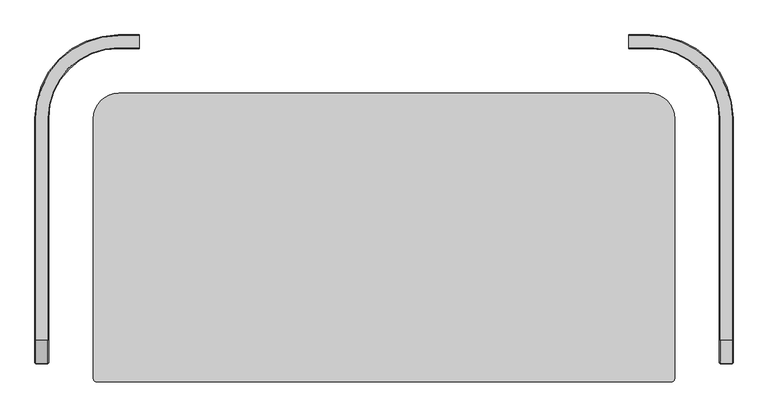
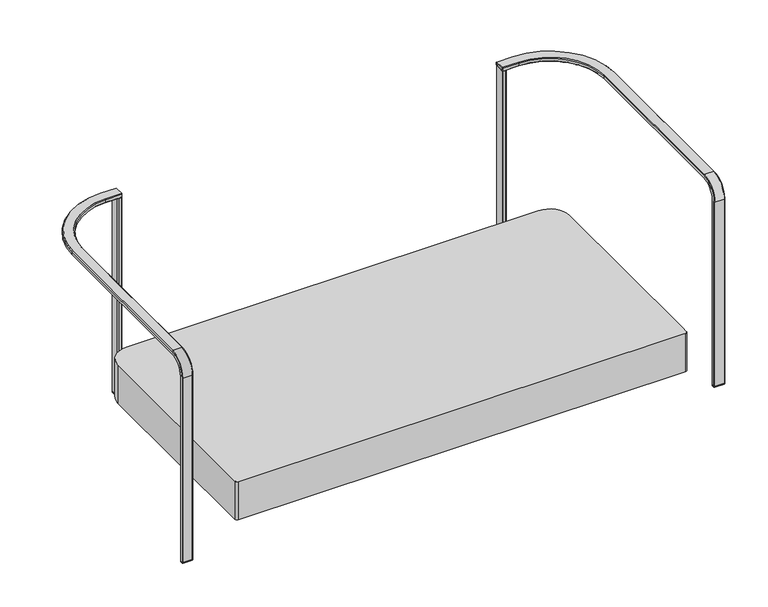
"""IFC4 building model written with IfcOpenShell, lengths in millimetres: furniture geometry, 00304 - Haworth - Castelli - Jul 13 - Ver - 4 - M_Sit (SLMS-FD02-8P) : Settee_SLMS-FD-02."""

from ifc_helpers import new_model, si_unit, frame, origin, origin_with_axes, place, context, project, spatial, polyline, circle_curve, outline, extrude, faceted_brep, source, transform, mapped, element, save
from ifc_brep_helpers import plane_surface, cylinder_surface, revolved_surface, advanced_brep


def furniture_18450899(model_context):
    return source(origin(), model_context, "Body", "SolidModel", [
        faceted_brep([(603.0548088, 711.9161717, 2.5539877), (603.0548088, 686.2246632, 2.5539877), (602.0099381, 685.1797924, 2.5539877), (595.3684295, 685.1797924, 2.5539877), (594.3235588, 686.2246632, 2.5539877), (594.3235588, 711.9161717, 2.5539877), (595.3684295, 712.9610424, 2.5539877), (602.0099381, 712.9610424, 2.5539877), (604.6423088, 712.5737357, 3.175), (602.6675021, 714.5485424, 3.175), (594.7108655, 714.5485424, 3.175), (592.7360588, 712.5737357, 3.175), (592.7360588, 685.5670991, 3.175), (594.7108655, 683.5922924, 3.175), (602.6675021, 683.5922924, 3.175), (604.6423088, 685.5670991, 3.175)], [[[0, 1, 2, 3, 4, 5, 6, 7]], [[8, 9, 10, 11, 12, 13, 14, 15]], [[8, 0, 7, 9]], [[9, 7, 6, 10]], [[10, 6, 5, 11]], [[11, 5, 4, 12]], [[12, 4, 3, 13]], [[13, 3, 2, 14]], [[14, 2, 1, 15]], [[15, 1, 0, 8]]]),
        faceted_brep([(603.0548088, 711.9161717, 2.5539877), (602.0099381, 712.9610424, 2.5539877), (595.3684295, 712.9610424, 2.5539877), (594.3235588, 711.9161717, 2.5539877), (594.3235588, 686.2246632, 2.5539877), (595.3684295, 685.1797924, 2.5539877), (602.0099381, 685.1797924, 2.5539877), (603.0548088, 686.2246632, 2.5539877), (604.6423088, 712.5737357, 1.7602377), (604.6423088, 685.5670991, 1.7602377), (602.6675021, 683.5922924, 1.7602377), (594.7108655, 683.5922924, 1.7602377), (592.7360588, 685.5670991, 1.7602377), (592.7360588, 712.5737357, 1.7602377), (594.7108655, 714.5485424, 1.7602377), (602.6675021, 714.5485424, 1.7602377)], [[[0, 1, 2, 3, 4, 5, 6, 7]], [[8, 9, 10, 11, 12, 13, 14, 15]], [[8, 0, 7, 9]], [[9, 7, 6, 10]], [[10, 6, 5, 11]], [[11, 5, 4, 12]], [[12, 4, 3, 13]], [[13, 3, 2, 14]], [[14, 2, 1, 15]], [[15, 1, 0, 8]]]),
        faceted_brep([(827.6860588, -20.88239, 2.5539877), (827.6860588, -28.1814626, 2.5539877), (826.1762201, -29.6913013, 2.5539877), (799.8271475, -29.6913013, 2.5539877), (798.3173088, -28.1814626, 2.5539877), (798.3173088, -20.88239, 2.5539877), (799.8271475, -19.3725513, 2.5539877), (826.1762201, -19.3725513, 2.5539877), (828.4798088, -20.553608, 3.175), (826.5050021, -18.5788013, 3.175), (799.4983655, -18.5788013, 3.175), (797.5235588, -20.553608, 3.175), (797.5235588, -28.5102446, 3.175), (799.4983655, -30.4850513, 3.175), (826.5050021, -30.4850513, 3.175), (828.4798088, -28.5102446, 3.175)], [[[0, 1, 2, 3, 4, 5, 6, 7]], [[8, 9, 10, 11, 12, 13, 14, 15]], [[8, 0, 7, 9]], [[9, 7, 6, 10]], [[10, 6, 5, 11]], [[11, 5, 4, 12]], [[12, 4, 3, 13]], [[13, 3, 2, 14]], [[14, 2, 1, 15]], [[15, 1, 0, 8]]]),
        faceted_brep([(827.6860588, -20.88239, 2.5539877), (826.1762201, -19.3725513, 2.5539877), (799.8271475, -19.3725513, 2.5539877), (798.3173088, -20.88239, 2.5539877), (798.3173088, -28.1814626, 2.5539877), (799.8271475, -29.6913013, 2.5539877), (826.1762201, -29.6913013, 2.5539877), (827.6860588, -28.1814626, 2.5539877), (828.4798088, -20.553608, 1.7602377), (828.4798088, -28.5102446, 1.7602377), (826.5050021, -30.4850513, 1.7602377), (799.4983655, -30.4850513, 1.7602377), (797.5235588, -28.5102446, 1.7602377), (797.5235588, -20.553608, 1.7602377), (799.4983655, -18.5788013, 1.7602377), (826.5050021, -18.5788013, 1.7602377)], [[[0, 1, 2, 3, 4, 5, 6, 7]], [[8, 9, 10, 11, 12, 13, 14, 15]], [[8, 0, 7, 9]], [[9, 7, 6, 10]], [[10, 6, 5, 11]], [[11, 5, 4, 12]], [[12, 4, 3, 13]], [[13, 3, 2, 14]], [[14, 2, 1, 15]], [[15, 1, 0, 8]]]),
        extrude(outline(polyline([(592.7360588, 685.5670991), (592.7360588, 712.5737357), (594.7108655, 714.5485424), (602.6675021, 714.5485424), (604.6423088, 712.5737357), (604.6423088, 685.5670991), (602.6675021, 683.5922924), (594.7108655, 683.5922924), (592.7360588, 685.5670991)]), holes=[polyline([(595.9110588, 686.7672924), (601.4673088, 686.7672924), (601.4673088, 711.3735424), (595.9110588, 711.3735424), (595.9110588, 686.7672924)])]), origin_with_axes(), (0.0, 0.0, 1.0), 1.7602377),
        extrude(outline(polyline([(799.4983655, -18.5788013), (826.5050021, -18.5788013), (828.4798088, -20.553608), (828.4798088, -28.5102446), (826.5050021, -30.4850513), (799.4983655, -30.4850513), (797.5235588, -28.5102446), (797.5235588, -20.553608), (799.4983655, -18.5788013)]), holes=[polyline([(800.6985588, -21.7538013), (800.6985588, -27.3100513), (825.3048088, -27.3100513), (825.3048088, -21.7538013), (800.6985588, -21.7538013)])]), origin_with_axes(), (0.0, 0.0, 1.0), 1.7602377),
        extrude(outline(polyline([(592.7360588, 685.5670991), (592.7360588, 712.5737357), (594.7108655, 714.5485424), (602.6675021, 714.5485424), (604.6423088, 712.5737357), (604.6423088, 685.5670991), (602.6675021, 683.5922924), (594.7108655, 683.5922924), (592.7360588, 685.5670991)]), holes=[polyline([(594.3235588, 685.1797924), (603.0548088, 685.1797924), (603.0548088, 712.9610424), (594.3235588, 712.9610424), (594.3235588, 685.1797924)])]), frame((0.0, 0.0, 3.175), z_axis=(0.0, 0.0, 1.0), x_axis=(1.0, 0.0, 0.0)), (0.0, 0.0, 1.0), 609.0046875),
        advanced_brep(
        [(826.5050021, 22.6961987, 624.0859375), (826.5050021, 525.6360424, 624.0859375), (639.5673088, 712.5737357, 624.0859375), (592.7360588, 712.5737357, 624.0859375), (592.7360588, 685.5670991, 624.0859375), (639.5673088, 685.5670991, 624.0859375), (799.4983655, 525.6360424, 624.0859375), (799.4983655, 22.6961987, 624.0859375), (828.4798088, 22.6961987, 622.1111308), (828.4798088, 525.6360424, 622.1111308), (828.4798088, -20.553608, 3.175), (828.4798088, -20.553608, 570.9046875), (828.4798088, 22.6961987, 614.1544942), (828.4798088, 525.6360424, 614.1544942), (828.4798088, -28.5102446, 570.9046875), (828.4798088, -28.5102446, 3.175), (826.5050021, 22.6961987, 612.1796875), (826.5050021, 525.6360424, 612.1796875), (799.4983655, 22.6961987, 612.1796875), (799.4983655, 525.6360424, 612.1796875), (639.5673088, 685.5670991, 612.1796875), (592.7360588, 685.5670991, 612.1796875), (592.7360588, 712.5737357, 612.1796875), (639.5673088, 712.5737357, 612.1796875), (797.5235588, 22.6961987, 614.1544942), (797.5235588, 525.6360424, 614.1544942), (797.5235588, -28.5102446, 3.175), (797.5235588, -28.5102446, 570.9046875), (797.5235588, 22.6961987, 622.1111308), (797.5235588, 525.6360424, 622.1111308), (797.5235588, -20.553608, 570.9046875), (797.5235588, -20.553608, 3.175), (800.6985588, -21.7538013, 3.175), (800.6985588, -21.7538013, 570.9046875), (800.6985588, 22.6961987, 615.3546875), (800.6985588, 525.6360424, 615.3546875), (800.6985588, 525.6360424, 620.9109375), (800.6985588, 22.6961987, 620.9109375), (800.6985588, -27.3100513, 570.9046875), (800.6985588, -27.3100513, 3.175), (825.3048088, 22.6961987, 615.3546875), (825.3048088, 525.6360424, 615.3546875), (639.5673088, 711.3735424, 615.3546875), (592.7360588, 711.3735424, 615.3546875), (592.7360588, 686.7672924, 615.3546875), (639.5673088, 686.7672924, 615.3546875), (825.3048088, -27.3100513, 3.175), (825.3048088, -27.3100513, 570.9046875), (825.3048088, 22.6961987, 620.9109375), (825.3048088, 525.6360424, 620.9109375), (825.3048088, -21.7538013, 570.9046875), (825.3048088, -21.7538013, 3.175), (639.5673088, 686.7672924, 620.9109375), (592.7360588, 686.7672924, 620.9109375), (592.7360588, 711.3735424, 620.9109375), (639.5673088, 711.3735424, 620.9109375), (826.5050021, -30.4850513, 3.175), (799.4983655, -30.4850513, 3.175), (799.4983655, -18.5788013, 3.175), (826.5050021, -18.5788013, 3.175), (826.5050021, -18.5788013, 570.9046875), (799.4983655, -18.5788013, 570.9046875), (799.4983655, -30.4850513, 570.9046875), (826.5050021, -30.4850513, 570.9046875), (592.7360588, 714.5485424, 622.1111308), (592.7360588, 714.5485424, 614.1544942), (592.7360588, 683.5922924, 614.1544942), (592.7360588, 683.5922924, 622.1111308), (639.5673088, 714.5485424, 622.1111308), (639.5673088, 683.5922924, 622.1111308), (639.5673088, 683.5922924, 614.1544942), (639.5673088, 714.5485424, 614.1544942)],
        [
            (0, 1),
            (1, 2, circle_curve(frame((639.5673088, 525.6360424, 624.0859375), z_axis=(0.0, 0.0, 1.0), x_axis=(0.0, 1.0, 0.0)), 186.9376933)),
            (2, 3),
            (3, 4),
            (4, 5),
            (5, 6, circle_curve(frame((639.5673088, 525.6360424, 624.0859375), z_axis=(0.0, 0.0, -1.0), x_axis=(0.0, 1.0, 0.0)), 159.9310567)),
            (6, 7),
            (7, 0),
            (8, 9),
            (9, 1),
            (0, 8),
            (10, 11),
            (11, 12, circle_curve(frame((828.4798088, 22.6961987, 570.9046875), z_axis=(-1.0, 0.0, 0.0), x_axis=(0.0, -1.0, 0.0)), 43.2498067)),
            (12, 13),
            (13, 9),
            (8, 14, circle_curve(frame((828.4798088, 22.6961987, 570.9046875), z_axis=(1.0, 0.0, 0.0), x_axis=(0.0, -1.0, 0.0)), 51.2064433)),
            (14, 15),
            (15, 10),
            (16, 17),
            (17, 13),
            (12, 16),
            (18, 19),
            (19, 20, circle_curve(frame((639.5673088, 525.6360424, 612.1796875), z_axis=(0.0, 0.0, 1.0), x_axis=(0.0, 1.0, 0.0)), 159.9310567)),
            (20, 21),
            (21, 22),
            (22, 23),
            (23, 17, circle_curve(frame((639.5673088, 525.6360424, 612.1796875), z_axis=(0.0, 0.0, -1.0), x_axis=(0.0, 1.0, 0.0)), 186.9376933)),
            (16, 18),
            (24, 25),
            (25, 19),
            (18, 24),
            (26, 27),
            (27, 28, circle_curve(frame((797.5235588, 22.6961987, 570.9046875), z_axis=(-1.0, 0.0, 0.0), x_axis=(0.0, -1.0, 0.0)), 51.2064433)),
            (28, 29),
            (29, 25),
            (24, 30, circle_curve(frame((797.5235588, 22.6961987, 570.9046875), z_axis=(1.0, 0.0, 0.0), x_axis=(0.0, -1.0, 0.0)), 43.2498067)),
            (30, 31),
            (31, 26),
            (6, 29),
            (28, 7),
            (32, 33),
            (33, 34, circle_curve(frame((800.6985588, 22.6961987, 570.9046875), z_axis=(-1.0, 0.0, 0.0), x_axis=(0.0, -1.0, 0.0)), 44.45)),
            (34, 35),
            (35, 36),
            (36, 37),
            (37, 38, circle_curve(frame((800.6985588, 22.6961987, 570.9046875), z_axis=(1.0, 0.0, 0.0), x_axis=(0.0, -1.0, 0.0)), 50.00625)),
            (38, 39),
            (39, 32),
            (40, 41),
            (41, 42, circle_curve(frame((639.5673088, 525.6360424, 615.3546875), z_axis=(0.0, 0.0, 1.0), x_axis=(0.0, 1.0, 0.0)), 185.7375)),
            (42, 43),
            (43, 44),
            (44, 45),
            (45, 35, circle_curve(frame((639.5673088, 525.6360424, 615.3546875), z_axis=(0.0, 0.0, -1.0), x_axis=(0.0, 1.0, 0.0)), 161.13125)),
            (34, 40),
            (46, 47),
            (47, 48, circle_curve(frame((825.3048088, 22.6961987, 570.9046875), z_axis=(-1.0, 0.0, 0.0), x_axis=(0.0, -1.0, 0.0)), 50.00625)),
            (48, 49),
            (49, 41),
            (40, 50, circle_curve(frame((825.3048088, 22.6961987, 570.9046875), z_axis=(1.0, 0.0, 0.0), x_axis=(0.0, -1.0, 0.0)), 44.45)),
            (50, 51),
            (51, 46),
            (36, 52, circle_curve(frame((639.5673088, 525.6360424, 620.9109375), z_axis=(0.0, 0.0, 1.0), x_axis=(0.0, 1.0, 0.0)), 161.13125)),
            (52, 53),
            (53, 54),
            (54, 55),
            (55, 49, circle_curve(frame((639.5673088, 525.6360424, 620.9109375), z_axis=(0.0, 0.0, -1.0), x_axis=(0.0, 1.0, 0.0)), 185.7375)),
            (48, 37),
            (15, 56),
            (56, 57),
            (57, 26),
            (31, 58),
            (58, 59),
            (59, 10),
            (39, 46),
            (51, 32),
            (50, 33),
            (38, 47),
            (59, 60),
            (60, 11),
            (58, 61),
            (61, 60),
            (30, 61),
            (57, 62),
            (62, 27),
            (56, 63),
            (63, 62),
            (14, 63),
            (60, 16, circle_curve(frame((826.5050021, 22.6961987, 570.9046875), z_axis=(-1.0, 0.0, 0.0), x_axis=(0.0, -1.0, 0.0)), 41.275)),
            (61, 18, circle_curve(frame((799.4983655, 22.6961987, 570.9046875), z_axis=(-1.0, 0.0, 0.0), x_axis=(0.0, -1.0, 0.0)), 41.275)),
            (62, 7, circle_curve(frame((799.4983655, 22.6961987, 570.9046875), z_axis=(-1.0, 0.0, 0.0), x_axis=(0.0, -1.0, 0.0)), 53.18125)),
            (63, 0, circle_curve(frame((826.5050021, 22.6961987, 570.9046875), z_axis=(-1.0, 0.0, 0.0), x_axis=(0.0, -1.0, 0.0)), 53.18125)),
            (64, 65),
            (65, 22),
            (21, 66),
            (66, 67),
            (67, 4),
            (3, 64),
            (53, 44),
            (43, 54),
            (2, 68),
            (68, 64),
            (67, 69),
            (69, 5),
            (66, 70),
            (70, 69),
            (20, 70),
            (65, 71),
            (71, 23),
            (68, 71),
            (42, 55),
            (52, 45),
            (9, 68, circle_curve(frame((639.5673088, 525.6360424, 622.1111308), z_axis=(0.0, 0.0, 1.0), x_axis=(0.0, 1.0, 0.0)), 188.9125)),
            (69, 29, circle_curve(frame((639.5673088, 525.6360424, 622.1111308), z_axis=(0.0, 0.0, -1.0), x_axis=(0.0, 1.0, 0.0)), 157.95625)),
            (70, 25, circle_curve(frame((639.5673088, 525.6360424, 614.1544942), z_axis=(0.0, 0.0, -1.0), x_axis=(0.0, 1.0, 0.0)), 157.95625)),
            (71, 13, circle_curve(frame((639.5673088, 525.6360424, 614.1544942), z_axis=(0.0, 0.0, -1.0), x_axis=(0.0, 1.0, 0.0)), 188.9125)),
        ],
        [
            plane_surface(frame((799.4983655, 327.4961987, 624.0859375), z_axis=(0.0, 0.0, 1.0), x_axis=(0.0, 1.0, 0.0))),
            plane_surface(frame((826.5050021, 327.4961987, 624.0859375), z_axis=(0.7071067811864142, 0.0, 0.7071067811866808), x_axis=(0.0, 1.0, 0.0))),
            plane_surface(frame((828.4798088, 327.4961987, 622.1111308), z_axis=(1.0, 0.0, 0.0), x_axis=(0.0, 1.0, 0.0))),
            plane_surface(frame((828.4798088, 327.4961987, 614.1544942), z_axis=(0.7071067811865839, 0.0, -0.7071067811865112), x_axis=(0.0, 1.0, 0.0))),
            plane_surface(frame((826.5050021, 327.4961987, 612.1796875), z_axis=(0.0, 0.0, -1.0), x_axis=(0.0, 1.0, 0.0))),
            plane_surface(frame((799.4983655, 327.4961987, 612.1796875), z_axis=(-0.7071067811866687, 0.0, -0.7071067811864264), x_axis=(0.0, 1.0, 0.0))),
            plane_surface(frame((797.5235588, 327.4961987, 614.1544942), z_axis=(-1.0, 0.0, 0.0), x_axis=(0.0, 1.0, 0.0))),
            plane_surface(frame((797.5235588, 327.4961987, 622.1111308), z_axis=(-0.7071067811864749, 0.0, 0.7071067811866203), x_axis=(0.0, 1.0, 0.0))),
            plane_surface(frame((800.6985588, 327.4961987, 620.9109375), z_axis=(1.0, 0.0, 0.0), x_axis=(0.0, 1.0, 0.0))),
            plane_surface(frame((800.6985588, 327.4961987, 615.3546875), z_axis=(0.0, 0.0, 1.0), x_axis=(0.0, 1.0, 0.0))),
            plane_surface(frame((825.3048088, 327.4961987, 615.3546875), z_axis=(-1.0, 0.0, 0.0), x_axis=(0.0, 1.0, 0.0))),
            plane_surface(frame((825.3048088, 327.4961987, 620.9109375), z_axis=(0.0, 0.0, -1.0), x_axis=(0.0, 1.0, 0.0))),
            plane_surface(frame((828.4798088, -18.5788013, 3.175), z_axis=(0.0, 0.0, -1.0), x_axis=(1.0, 0.0, 0.0))),
            plane_surface(frame((800.6985588, -21.7538013, 3.175), z_axis=(0.0, -1.0, 0.0), x_axis=(0.0, 0.0, 1.0))),
            plane_surface(frame((825.3048088, -27.3100513, 3.175), z_axis=(0.0, 1.0, 0.0), x_axis=(0.0, 0.0, 1.0))),
            plane_surface(frame((828.4798088, -20.553608, 3.175), z_axis=(0.7071067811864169, 0.7071067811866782, 0.0), x_axis=(0.0, 0.0, 1.0))),
            plane_surface(frame((826.5050021, -18.5788013, 3.175), z_axis=(0.0, 1.0, 0.0), x_axis=(0.0, 0.0, 1.0))),
            plane_surface(frame((799.4983655, -18.5788013, 3.175), z_axis=(-0.707106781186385, 0.70710678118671, 0.0), x_axis=(0.0, 0.0, 1.0))),
            plane_surface(frame((797.5235588, -28.5102446, 3.175), z_axis=(-0.7071067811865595, -0.7071067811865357, 0.0), x_axis=(0.0, 0.0, 1.0))),
            plane_surface(frame((799.4983655, -30.4850513, 3.175), z_axis=(0.0, -1.0, 0.0), x_axis=(0.0, 0.0, 1.0))),
            plane_surface(frame((826.5050021, -30.4850513, 3.175), z_axis=(0.7071067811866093, -0.7071067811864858, 0.0), x_axis=(0.0, 0.0, 1.0))),
            cylinder_surface(frame((828.4798088, 22.6961987, 570.9046875), z_axis=(1.0, 0.0, 0.0), x_axis=(0.0, -1.0, 0.0)), 44.45),
            revolved_surface(polyline([(825.3048088, -27.3100513, 570.9046875), (800.6985588, -27.3100513, 570.9046875)]), (828.4798088, 22.6961987, 570.9046875), (1.0, 0.0, 0.0)),
            revolved_surface(polyline([(828.4798088, -20.553608, 570.9046875), (826.5050021, -18.5788013, 570.9046875)]), (828.4798088, 22.6961987, 570.9046875), (1.0, 0.0, 0.0)),
            revolved_surface(polyline([(826.5050021, -18.5788013, 570.9046875), (799.4983655, -18.5788013, 570.9046875)]), (828.4798088, 22.6961987, 570.9046875), (1.0, 0.0, 0.0)),
            revolved_surface(polyline([(799.4983655, -18.5788013, 570.9046875), (797.5235588, -20.553608, 570.9046875)]), (828.4798088, 22.6961987, 570.9046875), (1.0, 0.0, 0.0)),
            revolved_surface(polyline([(797.5235588, -28.5102446, 570.9046875), (799.4983655, -30.4850513, 570.9046875)]), (828.4798088, 22.6961987, 570.9046875), (1.0, 0.0, 0.0)),
            cylinder_surface(frame((828.4798088, 22.6961987, 570.9046875), z_axis=(1.0, 0.0, 0.0), x_axis=(0.0, -1.0, 0.0)), 53.18125),
            revolved_surface(polyline([(826.5050021, -30.4850513, 570.9046875), (828.4798088, -28.5102446, 570.9046875)]), (828.4798088, 22.6961987, 570.9046875), (1.0, 0.0, 0.0)),
            plane_surface(frame((592.7360588, 714.5485424, 612.1796875), z_axis=(-1.0, 0.0, 0.0), x_axis=(0.0, 0.0, 1.0))),
            plane_surface(frame((592.7360588, 714.5485424, 622.1111308), z_axis=(0.0, 0.7071067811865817, 0.7071067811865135), x_axis=(1.0, 0.0, 0.0))),
            plane_surface(frame((592.7360588, 685.5670991, 624.0859375), z_axis=(0.0, -0.7071067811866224, 0.7071067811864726), x_axis=(1.0, 0.0, 0.0))),
            plane_surface(frame((592.7360588, 683.5922924, 622.1111308), z_axis=(0.0, -1.0, 0.0), x_axis=(1.0, 0.0, 0.0))),
            plane_surface(frame((592.7360588, 683.5922924, 614.1544942), z_axis=(0.0, -0.7071067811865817, -0.7071067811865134), x_axis=(1.0, 0.0, 0.0))),
            plane_surface(frame((592.7360588, 712.5737357, 612.1796875), z_axis=(0.0, 0.7071067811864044, -0.7071067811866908), x_axis=(1.0, 0.0, 0.0))),
            plane_surface(frame((592.7360588, 714.5485424, 614.1544942), z_axis=(0.0, 1.0, 0.0), x_axis=(1.0, 0.0, 0.0))),
            plane_surface(frame((592.7360588, 711.3735424, 620.9109375), z_axis=(0.0, -1.0, 0.0), x_axis=(1.0, 0.0, 0.0))),
            plane_surface(frame((592.7360588, 686.7672924, 615.3546875), z_axis=(0.0, 1.0, 0.0), x_axis=(1.0, 0.0, 0.0))),
            revolved_surface(polyline([(639.5673088, 714.5485424, 622.1111308), (639.5673088, 712.5737357, 624.0859375)]), (639.5673088, 525.6360424, 612.1796875), (0.0, 0.0, 1.0)),
            revolved_surface(polyline([(639.5673088, 685.5670991, 624.0859375), (639.5673088, 683.5922924, 622.1111308)]), (639.5673088, 525.6360424, 612.1796875), (0.0, 0.0, 1.0)),
            revolved_surface(polyline([(639.5673088, 683.5922923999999, 622.1111308), (639.5673088, 683.5922923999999, 614.1544942)]), (639.5673088, 525.6360424, 612.1796875), (0.0, 0.0, 1.0)),
            revolved_surface(polyline([(639.5673088, 683.5922924, 614.1544942), (639.5673088, 685.5670991, 612.1796875)]), (639.5673088, 525.6360424, 612.1796875), (0.0, 0.0, 1.0)),
            revolved_surface(polyline([(639.5673088, 712.5737357, 612.1796875), (639.5673088, 714.5485424, 614.1544942)]), (639.5673088, 525.6360424, 612.1796875), (0.0, 0.0, 1.0)),
            cylinder_surface(frame((639.5673088, 525.6360424, 612.1796875), z_axis=(0.0, 0.0, 1.0), x_axis=(0.0, 1.0, 0.0)), 188.9125),
            revolved_surface(polyline([(639.5673088, 711.3735423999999, 620.9109375), (639.5673088, 711.3735423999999, 615.3546875)]), (639.5673088, 525.6360424, 612.1796875), (0.0, 0.0, 1.0)),
            cylinder_surface(frame((639.5673088, 525.6360424, 612.1796875), z_axis=(0.0, 0.0, 1.0), x_axis=(0.0, 1.0, 0.0)), 161.13125),
        ],
        [
            (0, [[1, 2, 3, 4, 5, 6, 7, 8]]),
            (1, [[9, 10, -1, 11]]),
            (2, [[12, 13, 14, 15, -9, 16, 17, 18]]),
            (3, [[19, 20, -14, 21]]),
            (4, [[22, 23, 24, 25, 26, 27, -19, 28]]),
            (5, [[29, 30, -22, 31]]),
            (6, [[32, 33, 34, 35, -29, 36, 37, 38]]),
            (7, [[39, -34, 40, -7]]),
            (8, [[41, 42, 43, 44, 45, 46, 47, 48]]),
            (9, [[49, 50, 51, 52, 53, 54, -43, 55]]),
            (10, [[56, 57, 58, 59, -49, 60, 61, 62]]),
            (11, [[63, 64, 65, 66, 67, -58, 68, -45]]),
            (12, [[-18, 69, 70, 71, -38, 72, 73, 74], [-48, 75, -62, 76]]),
            (13, [[-61, 77, -41, -76]]),
            (14, [[-47, 78, -56, -75]]),
            (15, [[79, 80, -12, -74]]),
            (16, [[81, 82, -79, -73]]),
            (17, [[-37, 83, -81, -72]]),
            (18, [[84, 85, -32, -71]]),
            (19, [[86, 87, -84, -70]]),
            (20, [[-17, 88, -86, -69]]),
            (21, [[-60, -55, -42, -77]]),
            (22, [[-78, -46, -68, -57]]),
            (23, [[89, -21, -13, -80]]),
            (24, [[90, -28, -89, -82]]),
            (25, [[-36, -31, -90, -83]]),
            (26, [[-85, 91, -40, -33]]),
            (27, [[92, -8, -91, -87]]),
            (28, [[-16, -11, -92, -88]]),
            (29, [[93, 94, -25, 95, 96, 97, -4, 98], [99, -52, 100, -65]]),
            (30, [[-3, 101, 102, -98]]),
            (31, [[103, 104, -5, -97]]),
            (32, [[105, 106, -103, -96]]),
            (33, [[-24, 107, -105, -95]]),
            (34, [[108, 109, -26, -94]]),
            (35, [[-102, 110, -108, -93]]),
            (36, [[-51, 111, -66, -100]]),
            (37, [[-64, 112, -53, -99]]),
            (38, [[-2, -10, 113, -101]]),
            (39, [[-104, 114, -39, -6]]),
            (40, [[115, -35, -114, -106]]),
            (41, [[-23, -30, -115, -107]]),
            (42, [[-109, 116, -20, -27]]),
            (43, [[-113, -15, -116, -110]]),
            (44, [[-111, -50, -59, -67]]),
            (45, [[-44, -54, -112, -63]]),
        ],
    ),
        faceted_brep([(-526.947535, 711.9161717, 2.5539877), (-525.9026642, 712.9610424, 2.5539877), (-519.2611557, 712.9610424, 2.5539877), (-518.216285, 711.9161717, 2.5539877), (-518.216285, 686.2246632, 2.5539877), (-519.2611557, 685.1797924, 2.5539877), (-525.9026642, 685.1797924, 2.5539877), (-526.947535, 686.2246632, 2.5539877), (-528.535035, 712.5737357, 3.175), (-528.535035, 685.5670991, 3.175), (-526.5602283, 683.5922924, 3.175), (-518.6035917, 683.5922924, 3.175), (-516.628785, 685.5670991, 3.175), (-516.628785, 712.5737357, 3.175), (-518.6035917, 714.5485424, 3.175), (-526.5602283, 714.5485424, 3.175)], [[[0, 1, 2, 3, 4, 5, 6, 7]], [[8, 9, 10, 11, 12, 13, 14, 15]], [[8, 15, 1, 0]], [[15, 14, 2, 1]], [[14, 13, 3, 2]], [[13, 12, 4, 3]], [[12, 11, 5, 4]], [[11, 10, 6, 5]], [[10, 9, 7, 6]], [[9, 8, 0, 7]]]),
        faceted_brep([(-526.947535, 711.9161717, 2.5539877), (-526.947535, 686.2246632, 2.5539877), (-525.9026642, 685.1797924, 2.5539877), (-519.2611557, 685.1797924, 2.5539877), (-518.216285, 686.2246632, 2.5539877), (-518.216285, 711.9161717, 2.5539877), (-519.2611557, 712.9610424, 2.5539877), (-525.9026642, 712.9610424, 2.5539877), (-528.535035, 712.5737357, 1.7602377), (-526.5602283, 714.5485424, 1.7602377), (-518.6035917, 714.5485424, 1.7602377), (-516.628785, 712.5737357, 1.7602377), (-516.628785, 685.5670991, 1.7602377), (-518.6035917, 683.5922924, 1.7602377), (-526.5602283, 683.5922924, 1.7602377), (-528.535035, 685.5670991, 1.7602377)], [[[0, 1, 2, 3, 4, 5, 6, 7]], [[8, 9, 10, 11, 12, 13, 14, 15]], [[8, 15, 1, 0]], [[15, 14, 2, 1]], [[14, 13, 3, 2]], [[13, 12, 4, 3]], [[12, 11, 5, 4]], [[11, 10, 6, 5]], [[10, 9, 7, 6]], [[9, 8, 0, 7]]]),
        faceted_brep([(-751.578785, -20.88239, 2.5539877), (-750.0689462, -19.3725513, 2.5539877), (-723.7198737, -19.3725513, 2.5539877), (-722.210035, -20.88239, 2.5539877), (-722.210035, -28.1814626, 2.5539877), (-723.7198737, -29.6913013, 2.5539877), (-750.0689462, -29.6913013, 2.5539877), (-751.578785, -28.1814626, 2.5539877), (-752.372535, -20.553608, 3.175), (-752.372535, -28.5102446, 3.175), (-750.3977283, -30.4850513, 3.175), (-723.3910917, -30.4850513, 3.175), (-721.416285, -28.5102446, 3.175), (-721.416285, -20.553608, 3.175), (-723.3910917, -18.5788013, 3.175), (-750.3977283, -18.5788013, 3.175)], [[[0, 1, 2, 3, 4, 5, 6, 7]], [[8, 9, 10, 11, 12, 13, 14, 15]], [[8, 15, 1, 0]], [[15, 14, 2, 1]], [[14, 13, 3, 2]], [[13, 12, 4, 3]], [[12, 11, 5, 4]], [[11, 10, 6, 5]], [[10, 9, 7, 6]], [[9, 8, 0, 7]]]),
        faceted_brep([(-751.578785, -20.88239, 2.5539877), (-751.578785, -28.1814626, 2.5539877), (-750.0689462, -29.6913013, 2.5539877), (-723.7198737, -29.6913013, 2.5539877), (-722.210035, -28.1814626, 2.5539877), (-722.210035, -20.88239, 2.5539877), (-723.7198737, -19.3725513, 2.5539877), (-750.0689462, -19.3725513, 2.5539877), (-752.372535, -20.553608, 1.7602377), (-750.3977283, -18.5788013, 1.7602377), (-723.3910917, -18.5788013, 1.7602377), (-721.416285, -20.553608, 1.7602377), (-721.416285, -28.5102446, 1.7602377), (-723.3910917, -30.4850513, 1.7602377), (-750.3977283, -30.4850513, 1.7602377), (-752.372535, -28.5102446, 1.7602377)], [[[0, 1, 2, 3, 4, 5, 6, 7]], [[8, 9, 10, 11, 12, 13, 14, 15]], [[8, 15, 1, 0]], [[15, 14, 2, 1]], [[14, 13, 3, 2]], [[13, 12, 4, 3]], [[12, 11, 5, 4]], [[11, 10, 6, 5]], [[10, 9, 7, 6]], [[9, 8, 0, 7]]]),
        extrude(outline(polyline([(-516.628785, 685.5670991), (-518.6035917, 683.5922924), (-526.5602283, 683.5922924), (-528.535035, 685.5670991), (-528.535035, 712.5737357), (-526.5602283, 714.5485424), (-518.6035917, 714.5485424), (-516.628785, 712.5737357), (-516.628785, 685.5670991)]), holes=[polyline([(-519.803785, 686.7672924), (-519.803785, 711.3735424), (-525.360035, 711.3735424), (-525.360035, 686.7672924), (-519.803785, 686.7672924)])]), origin_with_axes(), (0.0, 0.0, 1.0), 1.7602377),
        extrude(outline(polyline([(-723.3910917, -18.5788013), (-721.416285, -20.553608), (-721.416285, -28.5102446), (-723.3910917, -30.4850513), (-750.3977283, -30.4850513), (-752.372535, -28.5102446), (-752.372535, -20.553608), (-750.3977283, -18.5788013), (-723.3910917, -18.5788013)]), holes=[polyline([(-724.591285, -21.7538013), (-749.197535, -21.7538013), (-749.197535, -27.3100513), (-724.591285, -27.3100513), (-724.591285, -21.7538013)])]), origin_with_axes(), (0.0, 0.0, 1.0), 1.7602377),
        extrude(outline(polyline([(-516.628785, 685.5670991), (-518.6035917, 683.5922924), (-526.5602283, 683.5922924), (-528.535035, 685.5670991), (-528.535035, 712.5737357), (-526.5602283, 714.5485424), (-518.6035917, 714.5485424), (-516.628785, 712.5737357), (-516.628785, 685.5670991)]), holes=[polyline([(-518.216285, 685.1797924), (-518.216285, 712.9610424), (-526.947535, 712.9610424), (-526.947535, 685.1797924), (-518.216285, 685.1797924)])]), frame((0.0, 0.0, 3.175), z_axis=(0.0, 0.0, 1.0), x_axis=(1.0, 0.0, 0.0)), (0.0, 0.0, 1.0), 609.0046875),
        advanced_brep(
        [(-750.3977283, 22.6961987, 624.0859375), (-723.3910917, 22.6961987, 624.0859375), (-723.3910917, 525.6360424, 624.0859375), (-563.460035, 685.5670991, 624.0859375), (-516.628785, 685.5670991, 624.0859375), (-516.628785, 712.5737357, 624.0859375), (-563.460035, 712.5737357, 624.0859375), (-750.3977283, 525.6360424, 624.0859375), (-752.372535, 22.6961987, 622.1111308), (-752.372535, 525.6360424, 622.1111308), (-752.372535, -20.553608, 3.175), (-752.372535, -28.5102446, 3.175), (-752.372535, -28.5102446, 570.9046875), (-752.372535, 525.6360424, 614.1544942), (-752.372535, 22.6961987, 614.1544942), (-752.372535, -20.553608, 570.9046875), (-750.3977283, 22.6961987, 612.1796875), (-750.3977283, 525.6360424, 612.1796875), (-723.3910917, 22.6961987, 612.1796875), (-563.460035, 712.5737357, 612.1796875), (-516.628785, 712.5737357, 612.1796875), (-516.628785, 685.5670991, 612.1796875), (-563.460035, 685.5670991, 612.1796875), (-723.3910917, 525.6360424, 612.1796875), (-721.416285, 22.6961987, 614.1544942), (-721.416285, 525.6360424, 614.1544942), (-721.416285, -28.5102446, 3.175), (-721.416285, -20.553608, 3.175), (-721.416285, -20.553608, 570.9046875), (-721.416285, 525.6360424, 622.1111308), (-721.416285, 22.6961987, 622.1111308), (-721.416285, -28.5102446, 570.9046875), (-724.591285, -21.7538013, 3.175), (-724.591285, -27.3100513, 3.175), (-724.591285, -27.3100513, 570.9046875), (-724.591285, 22.6961987, 620.9109375), (-724.591285, 525.6360424, 620.9109375), (-724.591285, 525.6360424, 615.3546875), (-724.591285, 22.6961987, 615.3546875), (-724.591285, -21.7538013, 570.9046875), (-749.197535, 22.6961987, 615.3546875), (-563.460035, 686.7672924, 615.3546875), (-516.628785, 686.7672924, 615.3546875), (-516.628785, 711.3735424, 615.3546875), (-563.460035, 711.3735424, 615.3546875), (-749.197535, 525.6360424, 615.3546875), (-749.197535, -27.3100513, 3.175), (-749.197535, -21.7538013, 3.175), (-749.197535, -21.7538013, 570.9046875), (-749.197535, 525.6360424, 620.9109375), (-749.197535, 22.6961987, 620.9109375), (-749.197535, -27.3100513, 570.9046875), (-563.460035, 711.3735424, 620.9109375), (-516.628785, 711.3735424, 620.9109375), (-516.628785, 686.7672924, 620.9109375), (-563.460035, 686.7672924, 620.9109375), (-750.3977283, -18.5788013, 3.175), (-723.3910917, -18.5788013, 3.175), (-723.3910917, -30.4850513, 3.175), (-750.3977283, -30.4850513, 3.175), (-750.3977283, -18.5788013, 570.9046875), (-723.3910917, -18.5788013, 570.9046875), (-723.3910917, -30.4850513, 570.9046875), (-750.3977283, -30.4850513, 570.9046875), (-516.628785, 714.5485424, 622.1111308), (-516.628785, 683.5922924, 622.1111308), (-516.628785, 683.5922924, 614.1544942), (-516.628785, 714.5485424, 614.1544942), (-563.460035, 714.5485424, 622.1111308), (-563.460035, 683.5922924, 622.1111308), (-563.460035, 683.5922924, 614.1544942), (-563.460035, 714.5485424, 614.1544942)],
        [
            (0, 1),
            (1, 2),
            (2, 3, circle_curve(frame((-563.460035, 525.6360424, 624.0859375), z_axis=(0.0, 0.0, -1.0), x_axis=(0.0, 1.0, 0.0)), 159.9310567)),
            (3, 4),
            (4, 5),
            (5, 6),
            (6, 7, circle_curve(frame((-563.460035, 525.6360424, 624.0859375), z_axis=(0.0, 0.0, 1.0), x_axis=(0.0, 1.0, 0.0)), 186.9376933)),
            (7, 0),
            (8, 0),
            (7, 9),
            (9, 8),
            (10, 11),
            (11, 12),
            (12, 8, circle_curve(frame((-752.372535, 22.6961987, 570.9046875), z_axis=(-1.0, 0.0, 0.0), x_axis=(0.0, -1.0, 0.0)), 51.2064433)),
            (9, 13),
            (13, 14),
            (14, 15, circle_curve(frame((-752.372535, 22.6961987, 570.9046875), z_axis=(1.0, 0.0, 0.0), x_axis=(0.0, -1.0, 0.0)), 43.2498067)),
            (15, 10),
            (16, 14),
            (13, 17),
            (17, 16),
            (18, 16),
            (17, 19, circle_curve(frame((-563.460035, 525.6360424, 612.1796875), z_axis=(0.0, 0.0, -1.0), x_axis=(0.0, 1.0, 0.0)), 186.9376933)),
            (19, 20),
            (20, 21),
            (21, 22),
            (22, 23, circle_curve(frame((-563.460035, 525.6360424, 612.1796875), z_axis=(0.0, 0.0, 1.0), x_axis=(0.0, 1.0, 0.0)), 159.9310567)),
            (23, 18),
            (24, 18),
            (23, 25),
            (25, 24),
            (26, 27),
            (27, 28),
            (28, 24, circle_curve(frame((-721.416285, 22.6961987, 570.9046875), z_axis=(-1.0, 0.0, 0.0), x_axis=(0.0, -1.0, 0.0)), 43.2498067)),
            (25, 29),
            (29, 30),
            (30, 31, circle_curve(frame((-721.416285, 22.6961987, 570.9046875), z_axis=(1.0, 0.0, 0.0), x_axis=(0.0, -1.0, 0.0)), 51.2064433)),
            (31, 26),
            (1, 30),
            (29, 2),
            (32, 33),
            (33, 34),
            (34, 35, circle_curve(frame((-724.591285, 22.6961987, 570.9046875), z_axis=(-1.0, 0.0, 0.0), x_axis=(0.0, -1.0, 0.0)), 50.00625)),
            (35, 36),
            (36, 37),
            (37, 38),
            (38, 39, circle_curve(frame((-724.591285, 22.6961987, 570.9046875), z_axis=(1.0, 0.0, 0.0), x_axis=(0.0, -1.0, 0.0)), 44.45)),
            (39, 32),
            (40, 38),
            (37, 41, circle_curve(frame((-563.460035, 525.6360424, 615.3546875), z_axis=(0.0, 0.0, -1.0), x_axis=(0.0, 1.0, 0.0)), 161.13125)),
            (41, 42),
            (42, 43),
            (43, 44),
            (44, 45, circle_curve(frame((-563.460035, 525.6360424, 615.3546875), z_axis=(0.0, 0.0, 1.0), x_axis=(0.0, 1.0, 0.0)), 185.7375)),
            (45, 40),
            (46, 47),
            (47, 48),
            (48, 40, circle_curve(frame((-749.197535, 22.6961987, 570.9046875), z_axis=(-1.0, 0.0, 0.0), x_axis=(0.0, -1.0, 0.0)), 44.45)),
            (45, 49),
            (49, 50),
            (50, 51, circle_curve(frame((-749.197535, 22.6961987, 570.9046875), z_axis=(1.0, 0.0, 0.0), x_axis=(0.0, -1.0, 0.0)), 50.00625)),
            (51, 46),
            (35, 50),
            (49, 52, circle_curve(frame((-563.460035, 525.6360424, 620.9109375), z_axis=(0.0, 0.0, -1.0), x_axis=(0.0, 1.0, 0.0)), 185.7375)),
            (52, 53),
            (53, 54),
            (54, 55),
            (55, 36, circle_curve(frame((-563.460035, 525.6360424, 620.9109375), z_axis=(0.0, 0.0, 1.0), x_axis=(0.0, 1.0, 0.0)), 161.13125)),
            (10, 56),
            (56, 57),
            (57, 27),
            (26, 58),
            (58, 59),
            (59, 11),
            (32, 47),
            (46, 33),
            (39, 48),
            (51, 34),
            (15, 60),
            (60, 56),
            (60, 61),
            (61, 57),
            (61, 28),
            (31, 62),
            (62, 58),
            (62, 63),
            (63, 59),
            (63, 12),
            (16, 60, circle_curve(frame((-750.3977283, 22.6961987, 570.9046875), z_axis=(1.0, 0.0, 0.0), x_axis=(0.0, -1.0, 0.0)), 41.275)),
            (18, 61, circle_curve(frame((-723.3910917, 22.6961987, 570.9046875), z_axis=(1.0, 0.0, 0.0), x_axis=(0.0, -1.0, 0.0)), 41.275)),
            (1, 62, circle_curve(frame((-723.3910917, 22.6961987, 570.9046875), z_axis=(1.0, 0.0, 0.0), x_axis=(0.0, -1.0, 0.0)), 53.18125)),
            (0, 63, circle_curve(frame((-750.3977283, 22.6961987, 570.9046875), z_axis=(1.0, 0.0, 0.0), x_axis=(0.0, -1.0, 0.0)), 53.18125)),
            (64, 5),
            (4, 65),
            (65, 66),
            (66, 21),
            (20, 67),
            (67, 64),
            (53, 43),
            (42, 54),
            (64, 68),
            (68, 6),
            (3, 69),
            (69, 65),
            (69, 70),
            (70, 66),
            (70, 22),
            (19, 71),
            (71, 67),
            (71, 68),
            (52, 44),
            (41, 55),
            (68, 9, circle_curve(frame((-563.460035, 525.6360424, 622.1111308), z_axis=(0.0, 0.0, 1.0), x_axis=(0.0, 1.0, 0.0)), 188.9125)),
            (29, 69, circle_curve(frame((-563.460035, 525.6360424, 622.1111308), z_axis=(0.0, 0.0, -1.0), x_axis=(0.0, 1.0, 0.0)), 157.95625)),
            (25, 70, circle_curve(frame((-563.460035, 525.6360424, 614.1544942), z_axis=(0.0, 0.0, -1.0), x_axis=(0.0, 1.0, 0.0)), 157.95625)),
            (13, 71, circle_curve(frame((-563.460035, 525.6360424, 614.1544942), z_axis=(0.0, 0.0, -1.0), x_axis=(0.0, 1.0, 0.0)), 188.9125)),
        ],
        [
            plane_surface(frame((-723.3910917, 327.4961987, 624.0859375), z_axis=(0.0, 0.0, 1.0), x_axis=(0.0, 1.0, 0.0))),
            plane_surface(frame((-750.3977283, 327.4961987, 624.0859375), z_axis=(-0.7071067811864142, 0.0, 0.7071067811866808), x_axis=(0.0, 1.0, 0.0))),
            plane_surface(frame((-752.372535, 327.4961987, 622.1111308), z_axis=(-1.0, 0.0, 0.0), x_axis=(0.0, 1.0, 0.0))),
            plane_surface(frame((-752.372535, 327.4961987, 614.1544942), z_axis=(-0.7071067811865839, 0.0, -0.7071067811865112), x_axis=(0.0, 1.0, 0.0))),
            plane_surface(frame((-750.3977283, 327.4961987, 612.1796875), z_axis=(0.0, 0.0, -1.0), x_axis=(0.0, 1.0, 0.0))),
            plane_surface(frame((-723.3910917, 327.4961987, 612.1796875), z_axis=(0.7071067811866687, 0.0, -0.7071067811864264), x_axis=(0.0, 1.0, 0.0))),
            plane_surface(frame((-721.416285, 327.4961987, 614.1544942), z_axis=(1.0, 0.0, 0.0), x_axis=(0.0, 1.0, 0.0))),
            plane_surface(frame((-721.416285, 327.4961987, 622.1111308), z_axis=(0.7071067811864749, 0.0, 0.7071067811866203), x_axis=(0.0, 1.0, 0.0))),
            plane_surface(frame((-724.591285, 327.4961987, 620.9109375), z_axis=(-1.0, 0.0, 0.0), x_axis=(0.0, 1.0, 0.0))),
            plane_surface(frame((-724.591285, 327.4961987, 615.3546875), z_axis=(0.0, 0.0, 1.0), x_axis=(0.0, 1.0, 0.0))),
            plane_surface(frame((-749.197535, 327.4961987, 615.3546875), z_axis=(1.0, 0.0, 0.0), x_axis=(0.0, 1.0, 0.0))),
            plane_surface(frame((-749.197535, 327.4961987, 620.9109375), z_axis=(0.0, 0.0, -1.0), x_axis=(0.0, 1.0, 0.0))),
            plane_surface(frame((-752.372535, -18.5788013, 3.175), z_axis=(0.0, 0.0, -1.0), x_axis=(-1.0, 0.0, 0.0))),
            plane_surface(frame((-724.591285, -21.7538013, 3.175), z_axis=(0.0, -1.0, 0.0), x_axis=(0.0, 0.0, 1.0))),
            plane_surface(frame((-749.197535, -27.3100513, 3.175), z_axis=(0.0, 1.0, 0.0), x_axis=(0.0, 0.0, 1.0))),
            plane_surface(frame((-752.372535, -20.553608, 3.175), z_axis=(-0.7071067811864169, 0.7071067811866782, 0.0), x_axis=(0.0, 0.0, 1.0))),
            plane_surface(frame((-750.3977283, -18.5788013, 3.175), z_axis=(0.0, 1.0, 0.0), x_axis=(0.0, 0.0, 1.0))),
            plane_surface(frame((-723.3910917, -18.5788013, 3.175), z_axis=(0.707106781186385, 0.70710678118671, 0.0), x_axis=(0.0, 0.0, 1.0))),
            plane_surface(frame((-721.416285, -28.5102446, 3.175), z_axis=(0.7071067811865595, -0.7071067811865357, 0.0), x_axis=(0.0, 0.0, 1.0))),
            plane_surface(frame((-723.3910917, -30.4850513, 3.175), z_axis=(0.0, -1.0, 0.0), x_axis=(0.0, 0.0, 1.0))),
            plane_surface(frame((-750.3977283, -30.4850513, 3.175), z_axis=(-0.7071067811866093, -0.7071067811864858, 0.0), x_axis=(0.0, 0.0, 1.0))),
            cylinder_surface(frame((-752.372535, 22.6961987, 570.9046875), z_axis=(-1.0, 0.0, 0.0), x_axis=(0.0, -1.0, 0.0)), 44.45),
            revolved_surface(polyline([(-749.197535, -27.3100513, 570.9046875), (-724.591285, -27.3100513, 570.9046875)]), (-752.372535, 22.6961987, 570.9046875), (-1.0, 0.0, 0.0)),
            revolved_surface(polyline([(-752.372535, -20.553608, 570.9046875), (-750.3977283, -18.5788013, 570.9046875)]), (-752.372535, 22.6961987, 570.9046875), (-1.0, 0.0, 0.0)),
            revolved_surface(polyline([(-750.3977283, -18.5788013, 570.9046875), (-723.3910917, -18.5788013, 570.9046875)]), (-752.372535, 22.6961987, 570.9046875), (-1.0, 0.0, 0.0)),
            revolved_surface(polyline([(-723.3910917, -18.5788013, 570.9046875), (-721.416285, -20.553608, 570.9046875)]), (-752.372535, 22.6961987, 570.9046875), (-1.0, 0.0, 0.0)),
            revolved_surface(polyline([(-721.416285, -28.5102446, 570.9046875), (-723.3910917, -30.4850513, 570.9046875)]), (-752.372535, 22.6961987, 570.9046875), (-1.0, 0.0, 0.0)),
            cylinder_surface(frame((-752.372535, 22.6961987, 570.9046875), z_axis=(-1.0, 0.0, 0.0), x_axis=(0.0, -1.0, 0.0)), 53.18125),
            revolved_surface(polyline([(-750.3977283, -30.4850513, 570.9046875), (-752.372535, -28.5102446, 570.9046875)]), (-752.372535, 22.6961987, 570.9046875), (-1.0, 0.0, 0.0)),
            plane_surface(frame((-516.628785, 714.5485424, 612.1796875), z_axis=(1.0, 0.0, 0.0), x_axis=(0.0, 0.0, 1.0))),
            plane_surface(frame((-516.628785, 714.5485424, 622.1111308), z_axis=(0.0, 0.7071067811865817, 0.7071067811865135), x_axis=(-1.0, 0.0, 0.0))),
            plane_surface(frame((-516.628785, 685.5670991, 624.0859375), z_axis=(0.0, -0.7071067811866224, 0.7071067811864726), x_axis=(-1.0, 0.0, 0.0))),
            plane_surface(frame((-516.628785, 683.5922924, 622.1111308), z_axis=(0.0, -1.0, 0.0), x_axis=(-1.0, 0.0, 0.0))),
            plane_surface(frame((-516.628785, 683.5922924, 614.1544942), z_axis=(0.0, -0.7071067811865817, -0.7071067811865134), x_axis=(-1.0, 0.0, 0.0))),
            plane_surface(frame((-516.628785, 712.5737357, 612.1796875), z_axis=(0.0, 0.7071067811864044, -0.7071067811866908), x_axis=(-1.0, 0.0, 0.0))),
            plane_surface(frame((-516.628785, 714.5485424, 614.1544942), z_axis=(0.0, 1.0, 0.0), x_axis=(-1.0, 0.0, 0.0))),
            plane_surface(frame((-516.628785, 711.3735424, 620.9109375), z_axis=(0.0, -1.0, 0.0), x_axis=(-1.0, 0.0, 0.0))),
            plane_surface(frame((-516.628785, 686.7672924, 615.3546875), z_axis=(0.0, 1.0, 0.0), x_axis=(-1.0, 0.0, 0.0))),
            revolved_surface(polyline([(-563.460035, 714.5485424, 622.1111308), (-563.460035, 712.5737357, 624.0859375)]), (-563.460035, 525.6360424, 612.1796875), (0.0, 0.0, 1.0)),
            revolved_surface(polyline([(-563.460035, 685.5670991, 624.0859375), (-563.460035, 683.5922924, 622.1111308)]), (-563.460035, 525.6360424, 612.1796875), (0.0, 0.0, 1.0)),
            revolved_surface(polyline([(-563.460035, 683.5922923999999, 622.1111308), (-563.460035, 683.5922923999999, 614.1544942)]), (-563.460035, 525.6360424, 612.1796875), (0.0, 0.0, 1.0)),
            revolved_surface(polyline([(-563.460035, 683.5922924, 614.1544942), (-563.460035, 685.5670991, 612.1796875)]), (-563.460035, 525.6360424, 612.1796875), (0.0, 0.0, 1.0)),
            revolved_surface(polyline([(-563.460035, 712.5737357, 612.1796875), (-563.460035, 714.5485424, 614.1544942)]), (-563.460035, 525.6360424, 612.1796875), (0.0, 0.0, 1.0)),
            cylinder_surface(frame((-563.460035, 525.6360424, 612.1796875), z_axis=(0.0, 0.0, 1.0), x_axis=(0.0, 1.0, 0.0)), 188.9125),
            revolved_surface(polyline([(-563.460035, 711.3735423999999, 620.9109375), (-563.460035, 711.3735423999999, 615.3546875)]), (-563.460035, 525.6360424, 612.1796875), (0.0, 0.0, 1.0)),
            cylinder_surface(frame((-563.460035, 525.6360424, 612.1796875), z_axis=(0.0, 0.0, 1.0), x_axis=(0.0, 1.0, 0.0)), 161.13125),
        ],
        [
            (0, [[1, 2, 3, 4, 5, 6, 7, 8]]),
            (1, [[9, -8, 10, 11]]),
            (2, [[12, 13, 14, -11, 15, 16, 17, 18]]),
            (3, [[19, -16, 20, 21]]),
            (4, [[22, -21, 23, 24, 25, 26, 27, 28]]),
            (5, [[29, -28, 30, 31]]),
            (6, [[32, 33, 34, -31, 35, 36, 37, 38]]),
            (7, [[-2, 39, -36, 40]]),
            (8, [[41, 42, 43, 44, 45, 46, 47, 48]]),
            (9, [[49, -46, 50, 51, 52, 53, 54, 55]]),
            (10, [[56, 57, 58, -55, 59, 60, 61, 62]]),
            (11, [[-44, 63, -60, 64, 65, 66, 67, 68]]),
            (12, [[69, 70, 71, -32, 72, 73, 74, -12], [75, -56, 76, -41]]),
            (13, [[-75, -48, 77, -57]]),
            (14, [[-76, -62, 78, -42]]),
            (15, [[-69, -18, 79, 80]]),
            (16, [[-70, -80, 81, 82]]),
            (17, [[-71, -82, 83, -33]]),
            (18, [[-72, -38, 84, 85]]),
            (19, [[-73, -85, 86, 87]]),
            (20, [[-74, -87, 88, -13]]),
            (21, [[-77, -47, -49, -58]]),
            (22, [[-61, -63, -43, -78]]),
            (23, [[-79, -17, -19, 89]]),
            (24, [[-81, -89, -22, 90]]),
            (25, [[-83, -90, -29, -34]]),
            (26, [[-37, -39, 91, -84]]),
            (27, [[-86, -91, -1, 92]]),
            (28, [[-88, -92, -9, -14]]),
            (29, [[93, -5, 94, 95, 96, -25, 97, 98], [-66, 99, -52, 100]]),
            (30, [[-93, 101, 102, -6]]),
            (31, [[-94, -4, 103, 104]]),
            (32, [[-95, -104, 105, 106]]),
            (33, [[-96, -106, 107, -26]]),
            (34, [[-97, -24, 108, 109]]),
            (35, [[-98, -109, 110, -101]]),
            (36, [[-99, -65, 111, -53]]),
            (37, [[-100, -51, 112, -67]]),
            (38, [[-102, 113, -10, -7]]),
            (39, [[-3, -40, 114, -103]]),
            (40, [[-105, -114, -35, 115]]),
            (41, [[-107, -115, -30, -27]]),
            (42, [[-23, -20, 116, -108]]),
            (43, [[-110, -116, -15, -113]]),
            (44, [[-64, -59, -54, -111]]),
            (45, [[-68, -112, -50, -45]]),
        ],
    ),
        advanced_brep(
        [(-562.666285, 581.9922924, 229.39375), (-619.816285, 524.8422924, 229.39375), (-619.816285, -65.4100513, 229.39375), (-613.466285, -71.7600513, 229.39375), (53.5962577, -71.7600513, 229.39375), (57.8613478, -71.7600513, 229.39375), (682.4658752, -71.7600513, 229.39375), (686.730938, -71.7600513, 229.39375), (689.5735588, -71.7600513, 229.39375), (695.9235588, -65.4100513, 229.39375), (695.9235588, -46.3600513, 229.39375), (695.9235588, 524.8422924, 229.39375), (638.7735588, 581.9922924, 229.39375), (101.5536369, 581.9922924, 229.39375), (-562.666285, 581.9922924, 111.91875), (638.7735588, 581.9922924, 111.91875), (695.9235588, 524.8422924, 111.91875), (695.9235588, -65.4100513, 111.91875), (689.5735588, -71.7600513, 111.91875), (-613.466285, -71.7600513, 111.91875), (-619.816285, -65.4100513, 111.91875), (-619.816285, 524.8422924, 111.91875)],
        [
            (0, 1, circle_curve(frame((-562.666285, 524.8422924, 229.39375), z_axis=(0.0, 0.0, 1.0), x_axis=(-1.0, 0.0, 0.0)), 57.15)),
            (1, 2),
            (2, 3, circle_curve(frame((-613.466285, -65.4100513, 229.39375), z_axis=(0.0, 0.0, 1.0), x_axis=(-1.0, 0.0, 0.0)), 6.35)),
            (3, 4),
            (4, 5),
            (5, 6),
            (6, 7),
            (7, 8),
            (8, 9, circle_curve(frame((689.5735588, -65.4100513, 229.39375), z_axis=(0.0, 0.0, 1.0), x_axis=(-1.0, 0.0, 0.0)), 6.35)),
            (9, 10),
            (10, 11),
            (11, 12, circle_curve(frame((638.7735588, 524.8422924, 229.39375), z_axis=(0.0, 0.0, 1.0), x_axis=(-1.0, 0.0, 0.0)), 57.15)),
            (12, 13),
            (13, 0),
            (14, 15),
            (15, 16, circle_curve(frame((638.7735588, 524.8422924, 111.91875), z_axis=(0.0, 0.0, -1.0), x_axis=(-1.0, 0.0, 0.0)), 57.15)),
            (16, 17),
            (17, 18, circle_curve(frame((689.5735588, -65.4100513, 111.91875), z_axis=(0.0, 0.0, -1.0), x_axis=(-1.0, 0.0, 0.0)), 6.35)),
            (18, 19),
            (19, 20, circle_curve(frame((-613.466285, -65.4100513, 111.91875), z_axis=(0.0, 0.0, -1.0), x_axis=(-1.0, 0.0, 0.0)), 6.35)),
            (20, 21),
            (21, 14, circle_curve(frame((-562.666285, 524.8422924, 111.91875), z_axis=(0.0, 0.0, -1.0), x_axis=(-1.0, 0.0, 0.0)), 57.15)),
            (0, 14),
            (21, 1),
            (20, 2),
            (19, 3),
            (18, 8),
            (17, 9),
            (16, 11),
            (15, 12),
        ],
        [
            plane_surface(frame((-619.816285, 524.8422924, 229.39375), z_axis=(0.0, 0.0, 1.0), x_axis=(0.0, -1.0, 0.0))),
            plane_surface(frame((-619.816285, 524.8422924, 111.91875), z_axis=(0.0, 0.0, -1.0), x_axis=(0.0, 1.0, 0.0))),
            cylinder_surface(frame((-562.666285, 524.8422924, 111.91875), z_axis=(0.0, 0.0, 1.0), x_axis=(-1.0, 0.0, 0.0)), 57.15),
            plane_surface(frame((-619.816285, 524.8422924, 229.39375), z_axis=(-1.0, 0.0, 0.0), x_axis=(0.0, 0.0, -1.0))),
            cylinder_surface(frame((-613.466285, -65.4100513, 111.91875), z_axis=(0.0, 0.0, 1.0), x_axis=(-1.0, 0.0, 0.0)), 6.35),
            plane_surface(frame((-613.466285, -71.7600513, 229.39375), z_axis=(0.0, -1.0, 0.0), x_axis=(0.0, 0.0, -1.0))),
            cylinder_surface(frame((689.5735588, -65.4100513, 111.91875), z_axis=(0.0, 0.0, 1.0), x_axis=(-1.0, 0.0, 0.0)), 6.35),
            plane_surface(frame((695.9235588, -65.4100513, 229.39375), z_axis=(1.0, 0.0, 0.0), x_axis=(0.0, 0.0, -1.0))),
            cylinder_surface(frame((638.7735588, 524.8422924, 111.91875), z_axis=(0.0, 0.0, 1.0), x_axis=(-1.0, 0.0, 0.0)), 57.15),
            plane_surface(frame((638.7735588, 581.9922924, 229.39375), z_axis=(0.0, 1.0, 0.0), x_axis=(0.0, 0.0, -1.0))),
        ],
        [
            (0, [[1, 2, 3, 4, 5, 6, 7, 8, 9, 10, 11, 12, 13, 14]]),
            (1, [[15, 16, 17, 18, 19, 20, 21, 22]]),
            (2, [[-1, 23, -22, 24]]),
            (3, [[-2, -24, -21, 25]]),
            (4, [[-3, -25, -20, 26]]),
            (5, [[-19, 27, -8, -7, -6, -5, -4, -26]]),
            (6, [[-9, -27, -18, 28]]),
            (7, [[-17, 29, -11, -10, -28]]),
            (8, [[-12, -29, -16, 30]]),
            (9, [[-15, -23, -14, -13, -30]]),
        ],
    ),
    ])


if __name__ == "__main__":
    model = new_model("IFC4")
    model_context = context("Model", 3, world=origin())
    ifc_project = project(units=[si_unit("LENGTHUNIT", "METRE", prefix="MILLI")], contexts=[model_context])
    site = spatial("IfcSite", under=ifc_project)
    building = spatial("IfcBuilding", under=site)
    placement = place(None, origin())
    furniture_shape = furniture_18450899(model_context)
    element("IfcFurniture", 1, ObjectType="00304 - Haworth - Castelli - Jul 13 - Ver - 4 - M_Sit (SLMS-FD02-8P) : Settee_SLMS-FD-02", at=placement, inside=building, context=model_context, shape_type="MappedRepresentation", body=[
        mapped(furniture_shape, transform((0.0, 0.0, 0.0), x_axis=(1.0, 0.0, 0.0), y_axis=(0.0, 1.0, 0.0), z_axis=(0.0, 0.0, 1.0))),
    ])
    save(model, "model.ifc")
